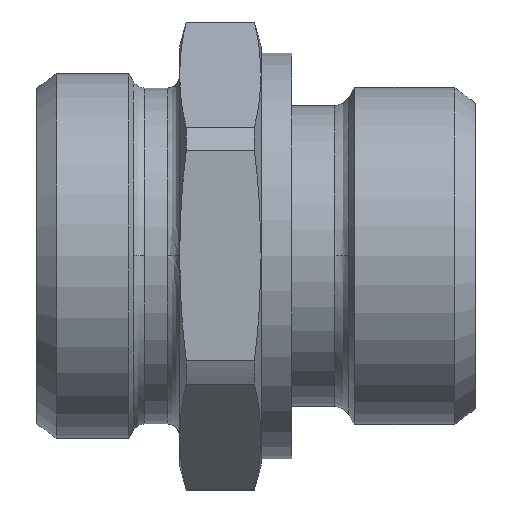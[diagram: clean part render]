
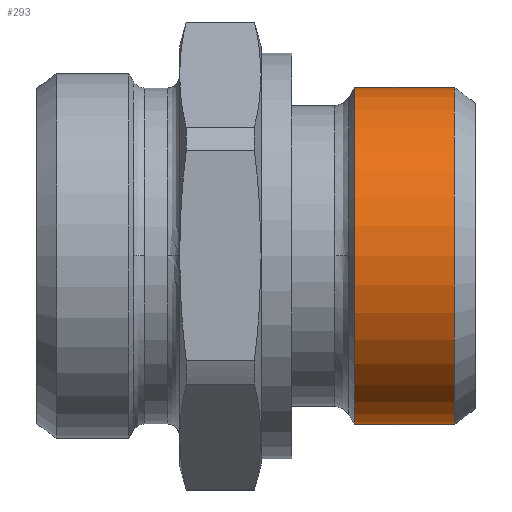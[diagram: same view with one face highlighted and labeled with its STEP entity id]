
A CAD part, top view. The second image highlights one B-rep face of the part: STEP entity #293.
In plain terms, the highlighted cylindrical face has radius 16.535 mm (diameter 33.07 mm), a partial arc.
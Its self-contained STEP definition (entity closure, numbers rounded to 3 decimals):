
#225=CARTESIAN_POINT('',(0.,16.535,-22.963));
#226=VERTEX_POINT('',#225);
#235=CARTESIAN_POINT('',(0.,-16.535,-22.963));
#236=VERTEX_POINT('',#235);
#237=CARTESIAN_POINT('',(0.,0.,-22.963));
#238=DIRECTION('',(0.0,0.0,-1.0));
#239=DIRECTION('',(0.0,1.0,0.0));
#240=AXIS2_PLACEMENT_3D('',#237,#238,#239);
#241=CIRCLE('',#240,16.535);
#242=EDGE_CURVE('',#226,#236,#241,.T.);
#262=CARTESIAN_POINT('',(0.,0.,-18.072));
#263=DIRECTION('',(0.,0.,-1.0));
#264=DIRECTION('',(0.0,1.0,0.0));
#265=AXIS2_PLACEMENT_3D('',#262,#263,#264);
#266=CYLINDRICAL_SURFACE('',#265,16.535);
#267=CARTESIAN_POINT('',(0.,16.535,-13.181));
#268=VERTEX_POINT('',#267);
#269=CARTESIAN_POINT('',(0.,16.535,-13.181));
#270=DIRECTION('',(0.0,0.0,-1.0));
#271=VECTOR('',#270,9.782);
#272=LINE('',#269,#271);
#273=EDGE_CURVE('',#268,#226,#272,.T.);
#274=ORIENTED_EDGE('',*,*,#273,.F.);
#275=CARTESIAN_POINT('',(0.,-16.535,-13.181));
#276=VERTEX_POINT('',#275);
#277=CARTESIAN_POINT('',(0.,0.,-13.181));
#278=DIRECTION('',(0.0,0.0,-1.0));
#279=DIRECTION('',(0.0,1.0,0.0));
#280=AXIS2_PLACEMENT_3D('',#277,#278,#279);
#281=CIRCLE('',#280,16.535);
#282=EDGE_CURVE('',#268,#276,#281,.T.);
#283=ORIENTED_EDGE('',*,*,#282,.T.);
#284=CARTESIAN_POINT('',(0.,-16.535,-22.963));
#285=DIRECTION('',(0.0,0.0,1.0));
#286=VECTOR('',#285,9.782);
#287=LINE('',#284,#286);
#288=EDGE_CURVE('',#236,#276,#287,.T.);
#289=ORIENTED_EDGE('',*,*,#288,.F.);
#290=ORIENTED_EDGE('',*,*,#242,.F.);
#291=EDGE_LOOP('',(#274,#283,#289,#290));
#292=FACE_OUTER_BOUND('',#291,.T.);
#293=ADVANCED_FACE('',(#292),#266,.T.);
